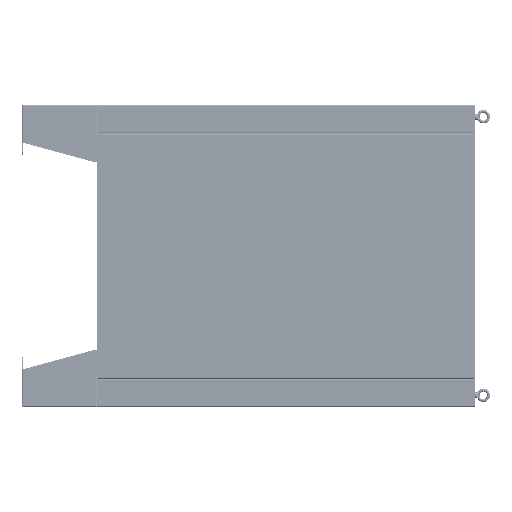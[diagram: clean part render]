
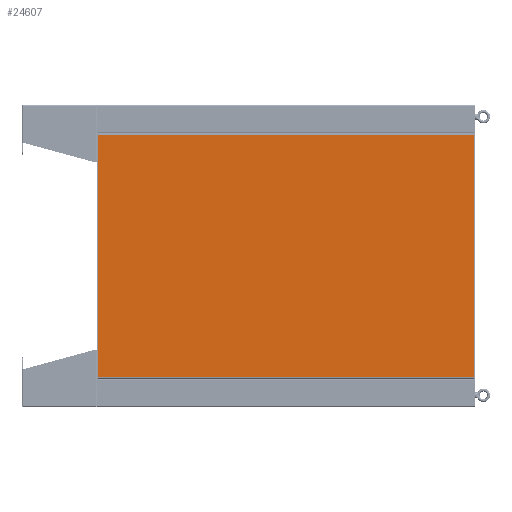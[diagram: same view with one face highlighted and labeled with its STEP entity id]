
A CAD part, left-side view. The second image highlights one B-rep face of the part: STEP entity #24607.
In plain terms, the highlighted planar face has unit normal (-1, 0, 0) as drawn and (0, 1, 0) by its records, which use the part's own axes.
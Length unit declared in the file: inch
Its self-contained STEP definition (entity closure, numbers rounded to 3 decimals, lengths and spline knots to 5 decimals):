
#23256=DIRECTION('',(-1.,0.,0.));
#23257=VECTOR('',#23256,38.622);
#23258=CARTESIAN_POINT('',(19.311,0.,29.896));
#23259=LINE('',#23258,#23257);
#23299=DIRECTION('',(0.,0.,1.));
#23300=VECTOR('',#23299,59.792);
#23301=CARTESIAN_POINT('',(19.311,0.,-29.896));
#23302=LINE('',#23301,#23300);
#23386=DIRECTION('',(-1.,0.,0.));
#23387=VECTOR('',#23386,38.622);
#23388=CARTESIAN_POINT('',(19.311,0.,-29.896));
#23389=LINE('',#23388,#23387);
#23429=DIRECTION('',(0.,0.,-1.));
#23430=VECTOR('',#23429,59.792);
#23431=CARTESIAN_POINT('',(-19.311,0.,29.896));
#23432=LINE('',#23431,#23430);
#24404=CARTESIAN_POINT('',(-19.311,0.,-29.896));
#24405=VERTEX_POINT('',#24404);
#24406=CARTESIAN_POINT('',(-19.311,0.,29.896));
#24407=VERTEX_POINT('',#24406);
#24420=CARTESIAN_POINT('',(19.311,0.,29.896));
#24421=VERTEX_POINT('',#24420);
#24422=CARTESIAN_POINT('',(19.311,0.,-29.896));
#24423=VERTEX_POINT('',#24422);
#24592=CARTESIAN_POINT('',(19.5,0.,29.896));
#24593=DIRECTION('',(0.,1.,0.));
#24594=DIRECTION('',(-1.,0.,0.));
#24595=AXIS2_PLACEMENT_3D('',#24592,#24593,#24594);
#24596=PLANE('',#24595);
#24598=ORIENTED_EDGE('',*,*,#24597,.T.);
#24600=ORIENTED_EDGE('',*,*,#24599,.T.);
#24602=ORIENTED_EDGE('',*,*,#24601,.F.);
#24604=ORIENTED_EDGE('',*,*,#24603,.T.);
#24605=EDGE_LOOP('',(#24598,#24600,#24602,#24604));
#24606=FACE_OUTER_BOUND('',#24605,.F.);
#24597=EDGE_CURVE('',#24421,#24407,#23259,.T.);
#24599=EDGE_CURVE('',#24407,#24405,#23432,.T.);
#24601=EDGE_CURVE('',#24423,#24405,#23389,.T.);
#24603=EDGE_CURVE('',#24423,#24421,#23302,.T.);
#24607=ADVANCED_FACE('',(#24606),#24596,.T.);
